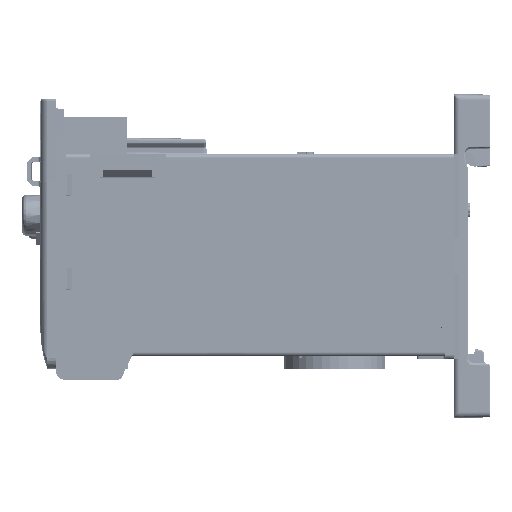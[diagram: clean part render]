
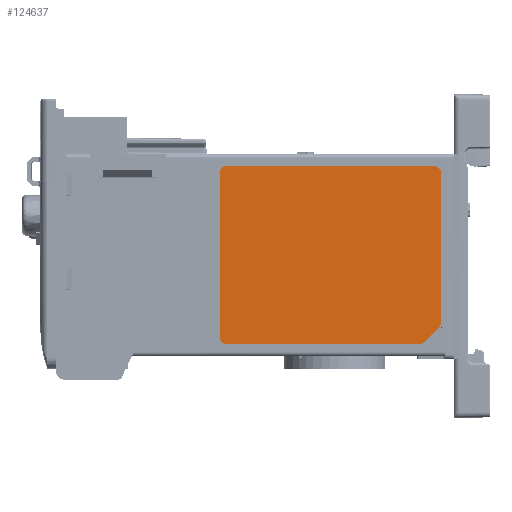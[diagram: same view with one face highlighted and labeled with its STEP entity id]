
A CAD part, left-side view. The second image highlights one B-rep face of the part: STEP entity #124637.
In plain terms, the highlighted planar face has unit normal (-1, 0, 0) as drawn and (0, 1, 0) by its records, which use the part's own axes.
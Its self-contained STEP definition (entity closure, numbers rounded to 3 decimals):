
#124367=CARTESIAN_POINT('',(-14.825,0.089,-18.775));
#124368=DIRECTION('',(0.,1.,0.));
#124369=DIRECTION('',(0.,0.,-1.));
#124370=AXIS2_PLACEMENT_3D('',#124367,#124368,#124369);
#124372=DIRECTION('',(-1.,0.,0.));
#124373=VECTOR('',#124372,29.65);
#124374=CARTESIAN_POINT('',(14.825,0.089,-20.021));
#124375=LINE('',#124374,#124373);
#124376=CARTESIAN_POINT('',(14.825,0.089,-18.775));
#124377=DIRECTION('',(0.,1.,0.));
#124378=DIRECTION('',(1.,0.,0.));
#124379=AXIS2_PLACEMENT_3D('',#124376,#124377,#124378);
#124381=DIRECTION('',(0.,0.,-1.));
#124382=VECTOR('',#124381,37.55);
#124383=CARTESIAN_POINT('',(16.071,0.089,18.775));
#124384=LINE('',#124383,#124382);
#124385=CARTESIAN_POINT('',(14.825,0.089,18.775));
#124386=DIRECTION('',(0.,1.,0.));
#124387=DIRECTION('',(0.,0.,1.));
#124388=AXIS2_PLACEMENT_3D('',#124385,#124386,#124387);
#124390=DIRECTION('',(1.,0.,0.));
#124391=VECTOR('',#124390,27.08);
#124392=CARTESIAN_POINT('',(-12.255,0.089,20.021));
#124393=LINE('',#124392,#124391);
#124394=CARTESIAN_POINT('',(-12.255,0.089,18.775));
#124395=DIRECTION('',(0.,1.,0.));
#124396=DIRECTION('',(-0.707,0.,0.707));
#124397=AXIS2_PLACEMENT_3D('',#124394,#124395,#124396);
#124399=DIRECTION('',(0.707,0.,0.707));
#124400=VECTOR('',#124399,3.635);
#124401=CARTESIAN_POINT('',(-15.706,0.089,17.086));
#124402=LINE('',#124401,#124400);
#124403=CARTESIAN_POINT('',(-14.825,0.089,16.205));
#124404=DIRECTION('',(0.,1.,0.));
#124405=DIRECTION('',(-1.,0.,0.));
#124406=AXIS2_PLACEMENT_3D('',#124403,#124404,#124405);
#124408=DIRECTION('',(0.,0.,1.));
#124409=VECTOR('',#124408,34.98);
#124410=CARTESIAN_POINT('',(-16.071,0.089,-18.775));
#124411=LINE('',#124410,#124409);
#124432=CARTESIAN_POINT('',(-14.825,0.089,-20.021));
#124433=CARTESIAN_POINT('',(-16.071,0.089,-18.775));
#124434=VERTEX_POINT('',#124432);
#124435=VERTEX_POINT('',#124433);
#124436=CARTESIAN_POINT('',(-16.071,0.089,16.205));
#124437=VERTEX_POINT('',#124436);
#124438=CARTESIAN_POINT('',(-15.706,0.089,17.086));
#124439=VERTEX_POINT('',#124438);
#124440=CARTESIAN_POINT('',(-13.136,0.089,19.656));
#124441=VERTEX_POINT('',#124440);
#124442=CARTESIAN_POINT('',(-12.255,0.089,20.021));
#124443=VERTEX_POINT('',#124442);
#124444=CARTESIAN_POINT('',(14.825,0.089,20.021));
#124445=VERTEX_POINT('',#124444);
#124446=CARTESIAN_POINT('',(16.071,0.089,18.775));
#124447=VERTEX_POINT('',#124446);
#124448=CARTESIAN_POINT('',(16.071,0.089,-18.775));
#124449=VERTEX_POINT('',#124448);
#124450=CARTESIAN_POINT('',(14.825,0.089,-20.021));
#124451=VERTEX_POINT('',#124450);
#124620=CARTESIAN_POINT('',(0.,0.089,0.));
#124621=DIRECTION('',(0.,1.,0.));
#124622=DIRECTION('',(1.,0.,0.));
#124623=AXIS2_PLACEMENT_3D('',#124620,#124621,#124622);
#124624=PLANE('',#124623);
#124625=ORIENTED_EDGE('',*,*,#124488,.F.);
#124626=ORIENTED_EDGE('',*,*,#124503,.F.);
#124627=ORIENTED_EDGE('',*,*,#124517,.F.);
#124628=ORIENTED_EDGE('',*,*,#124531,.F.);
#124629=ORIENTED_EDGE('',*,*,#124545,.F.);
#124630=ORIENTED_EDGE('',*,*,#124559,.F.);
#124631=ORIENTED_EDGE('',*,*,#124573,.F.);
#124632=ORIENTED_EDGE('',*,*,#124587,.F.);
#124633=ORIENTED_EDGE('',*,*,#124601,.F.);
#124634=ORIENTED_EDGE('',*,*,#124614,.F.);
#124635=EDGE_LOOP('',(#124625,#124626,#124627,#124628,#124629,#124630,#124631,
#124632,#124633,#124634));
#124636=FACE_OUTER_BOUND('',#124635,.F.);
#124637=ADVANCED_FACE('',(#124636),#124624,.T.);
#124371=CIRCLE('',#124370,1.246);
#124380=CIRCLE('',#124379,1.246);
#124389=CIRCLE('',#124388,1.246);
#124398=CIRCLE('',#124397,1.246);
#124407=CIRCLE('',#124406,1.246);
#124488=EDGE_CURVE('',#124434,#124435,#124371,.T.);
#124503=EDGE_CURVE('',#124451,#124434,#124375,.T.);
#124517=EDGE_CURVE('',#124449,#124451,#124380,.T.);
#124531=EDGE_CURVE('',#124447,#124449,#124384,.T.);
#124545=EDGE_CURVE('',#124445,#124447,#124389,.T.);
#124559=EDGE_CURVE('',#124443,#124445,#124393,.T.);
#124573=EDGE_CURVE('',#124441,#124443,#124398,.T.);
#124587=EDGE_CURVE('',#124439,#124441,#124402,.T.);
#124601=EDGE_CURVE('',#124437,#124439,#124407,.T.);
#124614=EDGE_CURVE('',#124435,#124437,#124411,.T.);
